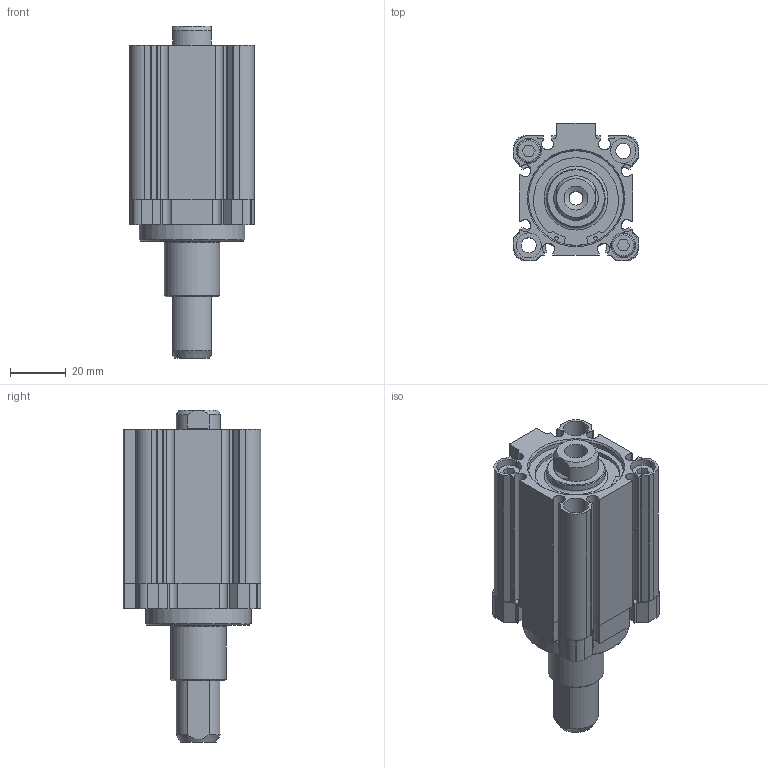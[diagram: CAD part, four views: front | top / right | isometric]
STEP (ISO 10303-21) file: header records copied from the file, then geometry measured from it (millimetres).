
FILE_DESCRIPTION( ( 'STEP AP214' ), '1' );
FILE_NAME( 'C:/Users/Segreteria/Desktop/CA.KHZ.32201518.stp', '2015-08-19T07:32:21', ( ' ' ), ( ' ' ), 'XStep 1.0', ' ', ' ' );
FILE_SCHEMA( ( 'CONFIG_CONTROL_DESIGN) ( )' ) );
Length unit declared in the file: metre
Products named in the file (22): Assem1; MSBR-21_0; MSBR-20_2; MSBR-19_4; MSBR-18_6; MSBR-17_8; MSBR-16_10; MSBR-15_12; MSBR-14_14; MSBR-13_16; MSBR-12_18; MSBR-11_20; MSBR-10_22; MSBR-9_24; MSBR-8_26; MSBR-7_28; MSBR-6_30; MSBR-5_32; MSBR-4_34; MSBR-3_36; MSBR-2_38; MSBR-1_40
Bounding box: 45 x 49.5 x 119.5 mm (x, y, z)
Volume: 214042.1 mm3; surface area: 142308.2 mm2
Topology: 42 solids, 42 shells, 1240 faces, 2872 edges, 1816 vertices
Faces by surface type: plane 550, cylinder 372, cone 236, torus 70, revolution 12
Full cylindrical faces by diameter (mm): 1.2 x4, 2 x6, 3 x4, 3.3 x6, 4 x6, 4.1 x6, 4.2 x4, 5 x8, 5.5 x12, 7 x12, 8.5 x4, 8.6 x6, 8.8 x4, 9 x20, 10 x2, 10.2 x6, 16 x10, 16.1 x2, 16.2 x4, 19 x4, 19.4 x4, 20 x8, 21 x6, 23 x4, 24 x8, 24.6 x4, 25.5 x4, 28.4 x2, 29 x2, 30.023 x4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
Entity records: 16734 total; most frequent: CARTESIAN_POINT 3085, DIRECTION 2900, ORIENTED_EDGE 2276, AXIS2_PLACEMENT_3D 1178, EDGE_CURVE 1138, EDGE_LOOP 941, VERTEX_POINT 827, FACE_OUTER_BOUND 767
